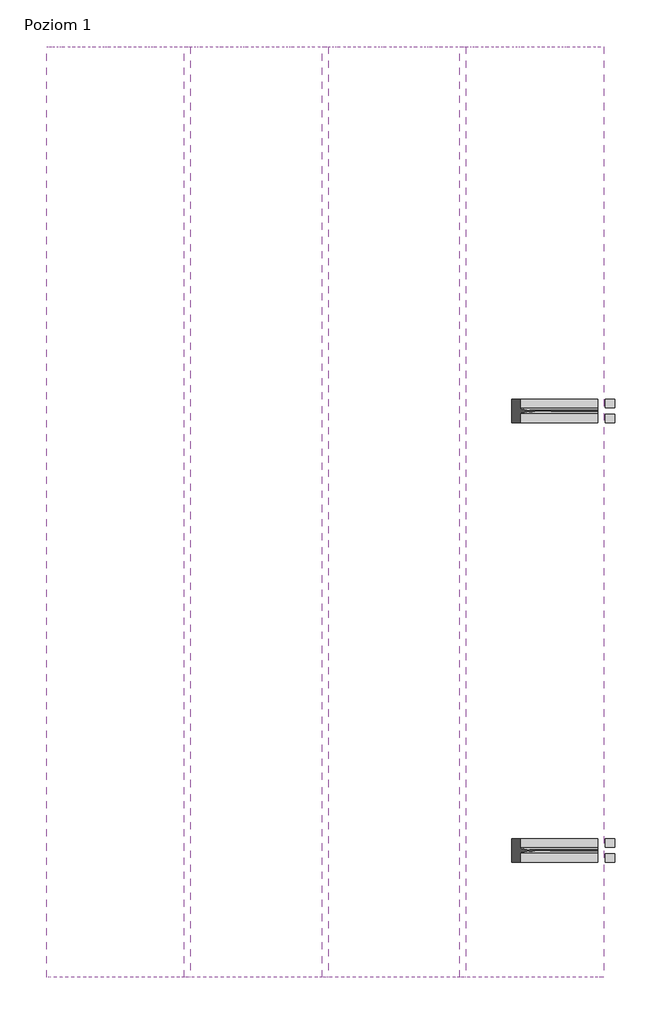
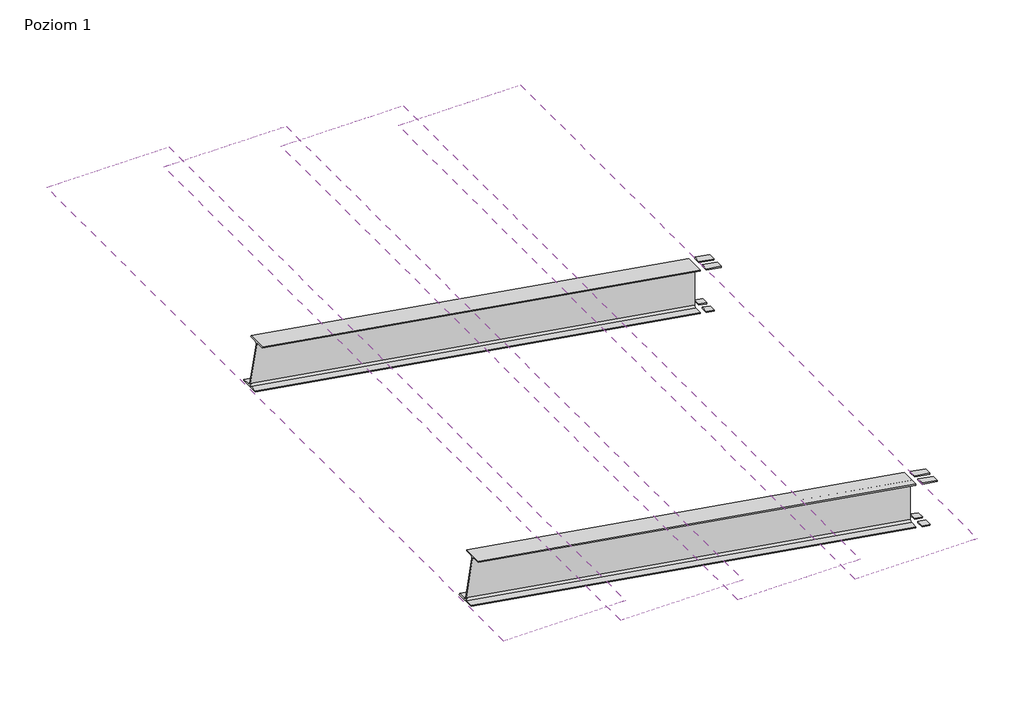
# One storey: 4 coverings, 2 beams.
"""IFC4 building model written with IfcOpenShell, lengths in millimetres."""

from ifc_helpers import new_model, si_unit, frame, origin, place, context, project, spatial, polyline, circle_curve, ellipse_curve, faceted_brep, transform, mapped, element, save
from ifc_brep_helpers import plane_surface, revolved_surface, advanced_brep
from components import covering_ad631c73

model = new_model("IFC4")

# Units and contexts
model_context = context("Model", 3, world=origin())
ifc_project = project(units=[si_unit("LENGTHUNIT", "METRE", prefix="MILLI")], contexts=[model_context])

# Site, building, storey
site = spatial("IfcSite", under=ifc_project)
building = spatial("IfcBuilding", under=site)
storey = spatial("IfcBuildingStorey", under=building, Name="Poziom 1", Elevation=3000.0)

# Beams
placement = place(None, origin())
element("IfcBeam", 1, ObjectType="Standard2 : Standard", at=placement, inside=storey, context=model_context, shape_type="SolidModel", body=[
    advanced_brep(
    [(-4809.5463115, -7785.3492704, 4748.6330156), (-4809.5463115, -7717.7942704, 4748.6330156), (-4806.6869603, -7700.0942704, 4766.1005314), (-4750.6630614, -7700.0942704, 5108.3454185), (-4747.8037101, -7717.7942704, 5125.8129344), (-4747.8037101, -7785.3492704, 5125.8129344), (-4746.0428667, -7785.3492704, 5136.5697662), (-4746.0428667, -7607.3492704, 5136.5697662), (-4747.8037101, -7607.3492704, 5125.8129344), (-4747.8037101, -7674.9042704, 5125.8129344), (-4750.6630614, -7692.6042704, 5108.3454185), (-4806.6869603, -7692.6042704, 4766.1005314), (-4809.5463115, -7674.9042704, 4748.6330156), (-4809.5463115, -7607.3492704, 4748.6330156), (-4811.307155, -7607.3492704, 4737.8761837), (-4811.307155, -7785.3492704, 4737.8761837), (-877.2962443, -7785.3492704, 4104.9419374), (-877.2962443, -7717.7942704, 4104.9419374), (-877.2962443, -7700.0942704, 4122.8775158), (-877.2962443, -7700.0942704, 4474.2932551), (-877.2962443, -7717.7942704, 4492.2288334), (-877.2962443, -7785.3492704, 4492.2288334), (-877.2962443, -7785.3492704, 4503.2739071), (-877.2962443, -7607.3492704, 4503.2739071), (-877.2962443, -7607.3492704, 4492.2288334), (-877.2962443, -7674.9042704, 4492.2288334), (-877.2962443, -7692.6042704, 4474.2932551), (-877.2962443, -7692.6042704, 4122.8775158), (-877.2962443, -7674.9042704, 4104.9419374), (-877.2962443, -7607.3492704, 4104.9419374), (-877.2962443, -7607.3492704, 4093.8968637), (-877.2962443, -7785.3492704, 4093.8968637)],
    [
        (0, 1),
        (1, 2, circle_curve(frame((-4806.6869603, -7717.7942704, 4766.1005314), z_axis=(0.9868653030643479, 0.0, -0.16154526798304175), x_axis=(0.0, 1.0, 0.0)), 17.7)),
        (2, 3),
        (3, 4, circle_curve(frame((-4750.6630614, -7717.7942704, 5108.3454185), z_axis=(0.9868653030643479, 0.0, -0.16154526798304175), x_axis=(0.0, 1.0, 0.0)), 17.7)),
        (4, 5),
        (5, 6),
        (6, 7),
        (7, 8),
        (8, 9),
        (9, 10, circle_curve(frame((-4750.6630614, -7674.9042704, 5108.3454185), z_axis=(0.9868653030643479, 0.0, -0.16154526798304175), x_axis=(0.0, 1.0, 0.0)), 17.7)),
        (10, 11),
        (11, 12, circle_curve(frame((-4806.6869603, -7674.9042704, 4766.1005314), z_axis=(0.9868653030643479, 0.0, -0.16154526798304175), x_axis=(0.0, 1.0, 0.0)), 17.7)),
        (12, 13),
        (13, 14),
        (14, 15),
        (15, 0),
        (0, 16),
        (16, 17),
        (17, 1),
        (17, 18, ellipse_curve(frame((-877.2962443, -7717.7942704, 4122.8775158), z_axis=(1.0, 0.0, 0.0), x_axis=(0.0, 0.0, -1.0)), 17.9355784, 17.7)),
        (18, 2),
        (18, 19),
        (19, 3),
        (19, 20, ellipse_curve(frame((-877.2962443, -7717.7942704, 4474.2932551), z_axis=(1.0, 0.0, 0.0), x_axis=(0.0, 0.0, -1.0)), 17.9355784, 17.7)),
        (20, 4),
        (20, 21),
        (21, 5),
        (21, 22),
        (22, 6),
        (22, 23),
        (23, 7),
        (23, 24),
        (24, 8),
        (24, 25),
        (25, 9),
        (25, 26, ellipse_curve(frame((-877.2962443, -7674.9042704, 4474.2932551), z_axis=(1.0, 0.0, 0.0), x_axis=(0.0, 0.0, -1.0)), 17.9355784, 17.7)),
        (26, 10),
        (26, 27),
        (27, 11),
        (27, 28, ellipse_curve(frame((-877.2962443, -7674.9042704, 4122.8775158), z_axis=(1.0, 0.0, 0.0), x_axis=(0.0, 0.0, -1.0)), 17.9355784, 17.7)),
        (28, 12),
        (28, 29),
        (29, 13),
        (29, 30),
        (30, 14),
        (30, 31),
        (31, 15),
        (31, 16),
    ],
    [
        plane_surface(frame((-4778.6750108, -7696.3492704, 4937.222975), z_axis=(-0.9868653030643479, 0.0, 0.16154526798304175), x_axis=(0.16154526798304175, 0.0, 0.9868653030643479))),
        plane_surface(frame((-4809.5463115, -7785.3492704, 4748.6330156), z_axis=(0.16154526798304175, 0.0, 0.9868653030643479), x_axis=(0.9868653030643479, 0.0, -0.16154526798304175))),
        revolved_surface(polyline([(-874.4368930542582, -7700.0942704, 4122.409453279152), (-4806.6869603, -7700.0942704, 4766.1005314)]), (-4806.6869603, -7717.7942704, 4766.1005314), (0.9868653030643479, 0.0, -0.16154526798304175)),
        plane_surface(frame((-4806.6869603, -7700.0942704, 4766.1005314), z_axis=(0.0, -1.0, 0.0), x_axis=(0.9868653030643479, 0.0, -0.16154526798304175))),
        revolved_surface(polyline([(-874.4368930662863, -7700.0942704, 4473.825192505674), (-4750.6630614, -7700.0942704, 5108.3454185)]), (-4750.6630614, -7717.7942704, 5108.3454185), (0.9868653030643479, 0.0, -0.16154526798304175)),
        plane_surface(frame((-4747.8037101, -7717.7942704, 5125.8129344), z_axis=(-0.16154526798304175, 0.0, -0.9868653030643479), x_axis=(0.9868653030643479, 0.0, -0.16154526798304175))),
        plane_surface(frame((-4747.8037101, -7785.3492704, 5125.8129344), z_axis=(0.0, -1.0, 0.0), x_axis=(0.9868653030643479, 0.0, -0.16154526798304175))),
        plane_surface(frame((-4746.0428667, -7785.3492704, 5136.5697662), z_axis=(0.16154526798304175, 0.0, 0.9868653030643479), x_axis=(0.9868653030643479, 0.0, -0.16154526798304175))),
        plane_surface(frame((-4746.0428667, -7607.3492704, 5136.5697662), z_axis=(0.0, 1.0, 0.0), x_axis=(0.9868653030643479, 0.0, -0.16154526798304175))),
        plane_surface(frame((-4747.8037101, -7607.3492704, 5125.8129344), z_axis=(-0.16154526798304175, 0.0, -0.9868653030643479), x_axis=(0.9868653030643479, 0.0, -0.16154526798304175))),
        revolved_surface(polyline([(-874.4368930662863, -7657.2042704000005, 4473.825192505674), (-4750.6630614, -7657.2042704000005, 5108.3454185)]), (-4750.6630614, -7674.9042704, 5108.3454185), (0.9868653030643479, 0.0, -0.16154526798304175)),
        plane_surface(frame((-4750.6630614, -7692.6042704, 5108.3454185), z_axis=(0.0, 1.0, 0.0), x_axis=(0.9868653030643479, 0.0, -0.16154526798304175))),
        revolved_surface(polyline([(-874.4368930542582, -7657.2042704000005, 4122.409453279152), (-4806.6869603, -7657.2042704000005, 4766.1005314)]), (-4806.6869603, -7674.9042704, 4766.1005314), (0.9868653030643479, 0.0, -0.16154526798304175)),
        plane_surface(frame((-4809.5463115, -7674.9042704, 4748.6330156), z_axis=(0.16154526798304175, 0.0, 0.9868653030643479), x_axis=(0.9868653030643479, 0.0, -0.16154526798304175))),
        plane_surface(frame((-4809.5463115, -7607.3492704, 4748.6330156), z_axis=(0.0, 1.0, 0.0), x_axis=(0.9868653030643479, 0.0, -0.16154526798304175))),
        plane_surface(frame((-4811.307155, -7607.3492704, 4737.8761837), z_axis=(-0.16154526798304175, 0.0, -0.9868653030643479), x_axis=(0.9868653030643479, 0.0, -0.16154526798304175))),
        plane_surface(frame((-4811.307155, -7785.3492704, 4737.8761837), z_axis=(0.0, -1.0, 0.0), x_axis=(0.9868653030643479, 0.0, -0.16154526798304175))),
        plane_surface(frame((-877.2962443, -7805.8492704, -20.0), z_axis=(1.0, 0.0, 0.0), x_axis=(0.0, 0.0, 1.0))),
    ],
    [
        (0, [[1, 2, 3, 4, 5, 6, 7, 8, 9, 10, 11, 12, 13, 14, 15, 16]]),
        (1, [[-1, 17, 18, 19]]),
        (2, [[-2, -19, 20, 21]]),
        (3, [[-3, -21, 22, 23]]),
        (4, [[-4, -23, 24, 25]]),
        (5, [[-5, -25, 26, 27]]),
        (6, [[-6, -27, 28, 29]]),
        (7, [[-7, -29, 30, 31]]),
        (8, [[-8, -31, 32, 33]]),
        (9, [[-9, -33, 34, 35]]),
        (10, [[-10, -35, 36, 37]]),
        (11, [[-11, -37, 38, 39]]),
        (12, [[-12, -39, 40, 41]]),
        (13, [[-13, -41, 42, 43]]),
        (14, [[-14, -43, 44, 45]]),
        (15, [[-15, -45, 46, 47]]),
        (16, [[-16, -47, 48, -17]]),
        (17, [[-18, -48, -46, -44, -42, -40, -38, -36, -34, -32, -30, -28, -26, -24, -22, -20]]),
    ],
),
    faceted_brep([(-754.3610265, -7607.3492704, 4073.7729394), (-752.6001831, -7607.3492704, 4084.5297712), (-752.6001831, -7671.9692704, 4084.5297712), (-754.3610265, -7671.9692704, 4073.7729394), (-822.8962443, -7671.9692704, 4084.9918363), (-822.8962443, -7671.9692704, 4096.03691), (-822.8962443, -7607.3492704, 4096.03691), (-822.8962443, -7607.3492704, 4084.9918363)], [[[0, 1, 2, 3]], [[4, 5, 6, 7]], [[5, 4, 3, 2]], [[2, 1, 6, 5]], [[1, 0, 7, 6]], [[0, 3, 4, 7]]]),
    faceted_brep([(-822.8962443, -7720.7292704, 4084.9918363), (-822.8962443, -7720.7292704, 4096.03691), (-752.6001831, -7720.7292704, 4084.5297712), (-754.3610265, -7720.7292704, 4073.7729394), (-822.8962443, -7785.3492704, 4084.9918363), (-822.8962443, -7785.3492704, 4096.03691), (-752.6001831, -7785.3492704, 4084.5297712), (-754.3610265, -7785.3492704, 4073.7729394)], [[[0, 1, 2, 3]], [[1, 0, 4, 5]], [[6, 7, 3, 2]], [[6, 2, 1, 5]], [[3, 7, 4, 0]], [[7, 6, 5, 4]]]),
    faceted_brep([(-690.8575817, -7607.3492704, 4461.70969), (-689.0967383, -7607.3492704, 4472.4665218), (-689.0967383, -7671.9692704, 4472.4665218), (-690.8575817, -7671.9692704, 4461.70969), (-822.8962443, -7607.3492704, 4494.3688797), (-822.8962443, -7671.9692704, 4494.3688797), (-822.8962443, -7607.3492704, 4483.323806), (-822.8962443, -7671.9692704, 4483.323806)], [[[0, 1, 2, 3]], [[2, 1, 4, 5]], [[1, 0, 6, 4]], [[0, 3, 7, 6]], [[7, 5, 4, 6]], [[5, 7, 3, 2]]]),
    faceted_brep([(-689.0967383, -7785.3492704, 4472.4665218), (-690.8575817, -7785.3492704, 4461.70969), (-690.8575817, -7720.7292704, 4461.70969), (-689.0967383, -7720.7292704, 4472.4665218), (-822.8962443, -7785.3492704, 4483.323806), (-822.8962443, -7720.7292704, 4483.323806), (-822.8962443, -7785.3492704, 4494.3688797), (-822.8962443, -7720.7292704, 4494.3688797)], [[[0, 1, 2, 3]], [[2, 1, 4, 5]], [[1, 0, 6, 4]], [[0, 3, 7, 6]], [[5, 7, 3, 2]], [[7, 5, 4, 6]]]),
])
element("IfcBeam", 2, ObjectType="Standard2 : Standard", at=placement, inside=storey, context=model_context, shape_type="SolidModel", body=[
    advanced_brep(
    [(-4809.5463115, -4480.5492704, 4748.6330156), (-4809.5463115, -4412.9942704, 4748.6330156), (-4806.6869603, -4395.2942704, 4766.1005314), (-4750.6630614, -4395.2942704, 5108.3454185), (-4747.8037101, -4412.9942704, 5125.8129344), (-4747.8037101, -4480.5492704, 5125.8129344), (-4746.0428667, -4480.5492704, 5136.5697662), (-4746.0428667, -4302.5492704, 5136.5697662), (-4747.8037101, -4302.5492704, 5125.8129344), (-4747.8037101, -4370.1042704, 5125.8129344), (-4750.6630614, -4387.8042704, 5108.3454185), (-4806.6869603, -4387.8042704, 4766.1005314), (-4809.5463115, -4370.1042704, 4748.6330156), (-4809.5463115, -4302.5492704, 4748.6330156), (-4811.307155, -4302.5492704, 4737.8761837), (-4811.307155, -4480.5492704, 4737.8761837), (-877.2962443, -4480.5492704, 4104.9419374), (-877.2962443, -4412.9942704, 4104.9419374), (-877.2962443, -4395.2942704, 4122.8775158), (-877.2962443, -4395.2942704, 4474.2932551), (-877.2962443, -4412.9942704, 4492.2288334), (-877.2962443, -4480.5492704, 4492.2288334), (-877.2962443, -4480.5492704, 4503.2739071), (-877.2962443, -4302.5492704, 4503.2739071), (-877.2962443, -4302.5492704, 4492.2288334), (-877.2962443, -4370.1042704, 4492.2288334), (-877.2962443, -4387.8042704, 4474.2932551), (-877.2962443, -4387.8042704, 4122.8775158), (-877.2962443, -4370.1042704, 4104.9419374), (-877.2962443, -4302.5492704, 4104.9419374), (-877.2962443, -4302.5492704, 4093.8968637), (-877.2962443, -4480.5492704, 4093.8968637)],
    [
        (0, 1),
        (1, 2, circle_curve(frame((-4806.6869603, -4412.9942704, 4766.1005314), z_axis=(0.9868653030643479, 0.0, -0.16154526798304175), x_axis=(0.0, 1.0, 0.0)), 17.7)),
        (2, 3),
        (3, 4, circle_curve(frame((-4750.6630614, -4412.9942704, 5108.3454185), z_axis=(0.9868653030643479, 0.0, -0.16154526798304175), x_axis=(0.0, 1.0, 0.0)), 17.7)),
        (4, 5),
        (5, 6),
        (6, 7),
        (7, 8),
        (8, 9),
        (9, 10, circle_curve(frame((-4750.6630614, -4370.1042704, 5108.3454185), z_axis=(0.9868653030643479, 0.0, -0.16154526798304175), x_axis=(0.0, 1.0, 0.0)), 17.7)),
        (10, 11),
        (11, 12, circle_curve(frame((-4806.6869603, -4370.1042704, 4766.1005314), z_axis=(0.9868653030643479, 0.0, -0.16154526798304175), x_axis=(0.0, 1.0, 0.0)), 17.7)),
        (12, 13),
        (13, 14),
        (14, 15),
        (15, 0),
        (0, 16),
        (16, 17),
        (17, 1),
        (17, 18, ellipse_curve(frame((-877.2962443, -4412.9942704, 4122.8775158), z_axis=(1.0, 0.0, 0.0), x_axis=(0.0, 0.0, -1.0)), 17.9355784, 17.7)),
        (18, 2),
        (18, 19),
        (19, 3),
        (19, 20, ellipse_curve(frame((-877.2962443, -4412.9942704, 4474.2932551), z_axis=(1.0, 0.0, 0.0), x_axis=(0.0, 0.0, -1.0)), 17.9355784, 17.7)),
        (20, 4),
        (20, 21),
        (21, 5),
        (21, 22),
        (22, 6),
        (22, 23),
        (23, 7),
        (23, 24),
        (24, 8),
        (24, 25),
        (25, 9),
        (25, 26, ellipse_curve(frame((-877.2962443, -4370.1042704, 4474.2932551), z_axis=(1.0, 0.0, 0.0), x_axis=(0.0, 0.0, -1.0)), 17.9355784, 17.7)),
        (26, 10),
        (26, 27),
        (27, 11),
        (27, 28, ellipse_curve(frame((-877.2962443, -4370.1042704, 4122.8775158), z_axis=(1.0, 0.0, 0.0), x_axis=(0.0, 0.0, -1.0)), 17.9355784, 17.7)),
        (28, 12),
        (28, 29),
        (29, 13),
        (29, 30),
        (30, 14),
        (30, 31),
        (31, 15),
        (31, 16),
    ],
    [
        plane_surface(frame((-4778.6750108, -4391.5492704, 4937.222975), z_axis=(-0.9868653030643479, 0.0, 0.16154526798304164), x_axis=(0.16154526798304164, 0.0, 0.9868653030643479))),
        plane_surface(frame((-4809.5463115, -4480.5492704, 4748.6330156), z_axis=(0.16154526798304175, 0.0, 0.9868653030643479), x_axis=(0.9868653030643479, 0.0, -0.16154526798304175))),
        revolved_surface(polyline([(-874.4368930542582, -4395.2942704, 4122.409453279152), (-4806.6869603, -4395.2942704, 4766.1005314)]), (-4806.6869603, -4412.9942704, 4766.1005314), (0.9868653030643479, 0.0, -0.16154526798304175)),
        plane_surface(frame((-4806.6869603, -4395.2942704, 4766.1005314), z_axis=(0.0, -1.0, 0.0), x_axis=(0.9868653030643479, 0.0, -0.16154526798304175))),
        revolved_surface(polyline([(-874.4368930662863, -4395.2942704, 4473.825192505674), (-4750.6630614, -4395.2942704, 5108.3454185)]), (-4750.6630614, -4412.9942704, 5108.3454185), (0.9868653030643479, 0.0, -0.16154526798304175)),
        plane_surface(frame((-4747.8037101, -4412.9942704, 5125.8129344), z_axis=(-0.16154526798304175, 0.0, -0.9868653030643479), x_axis=(0.9868653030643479, 0.0, -0.16154526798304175))),
        plane_surface(frame((-4747.8037101, -4480.5492704, 5125.8129344), z_axis=(0.0, -1.0, 0.0), x_axis=(0.9868653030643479, 0.0, -0.16154526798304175))),
        plane_surface(frame((-4746.0428667, -4480.5492704, 5136.5697662), z_axis=(0.16154526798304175, 0.0, 0.9868653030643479), x_axis=(0.9868653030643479, 0.0, -0.16154526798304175))),
        plane_surface(frame((-4746.0428667, -4302.5492704, 5136.5697662), z_axis=(0.0, 1.0, 0.0), x_axis=(0.9868653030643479, 0.0, -0.16154526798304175))),
        plane_surface(frame((-4747.8037101, -4302.5492704, 5125.8129344), z_axis=(-0.16154526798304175, 0.0, -0.9868653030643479), x_axis=(0.9868653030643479, 0.0, -0.16154526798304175))),
        revolved_surface(polyline([(-874.4368930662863, -4352.4042704, 4473.825192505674), (-4750.6630614, -4352.4042704, 5108.3454185)]), (-4750.6630614, -4370.1042704, 5108.3454185), (0.9868653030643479, 0.0, -0.16154526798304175)),
        plane_surface(frame((-4750.6630614, -4387.8042704, 5108.3454185), z_axis=(0.0, 1.0, 0.0), x_axis=(0.9868653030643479, 0.0, -0.16154526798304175))),
        revolved_surface(polyline([(-874.4368930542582, -4352.4042704, 4122.409453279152), (-4806.6869603, -4352.4042704, 4766.1005314)]), (-4806.6869603, -4370.1042704, 4766.1005314), (0.9868653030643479, 0.0, -0.16154526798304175)),
        plane_surface(frame((-4809.5463115, -4370.1042704, 4748.6330156), z_axis=(0.16154526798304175, 0.0, 0.9868653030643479), x_axis=(0.9868653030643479, 0.0, -0.16154526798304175))),
        plane_surface(frame((-4809.5463115, -4302.5492704, 4748.6330156), z_axis=(0.0, 1.0, 0.0), x_axis=(0.9868653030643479, 0.0, -0.16154526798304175))),
        plane_surface(frame((-4811.307155, -4302.5492704, 4737.8761837), z_axis=(-0.16154526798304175, 0.0, -0.9868653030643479), x_axis=(0.9868653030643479, 0.0, -0.16154526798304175))),
        plane_surface(frame((-4811.307155, -4480.5492704, 4737.8761837), z_axis=(0.0, -1.0, 0.0), x_axis=(0.9868653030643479, 0.0, -0.16154526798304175))),
        plane_surface(frame((-877.2962443, -4501.0492704, -20.0), z_axis=(1.0, 0.0, 0.0), x_axis=(0.0, 0.0, 1.0))),
    ],
    [
        (0, [[1, 2, 3, 4, 5, 6, 7, 8, 9, 10, 11, 12, 13, 14, 15, 16]]),
        (1, [[-1, 17, 18, 19]]),
        (2, [[-2, -19, 20, 21]]),
        (3, [[-3, -21, 22, 23]]),
        (4, [[-4, -23, 24, 25]]),
        (5, [[-5, -25, 26, 27]]),
        (6, [[-6, -27, 28, 29]]),
        (7, [[-7, -29, 30, 31]]),
        (8, [[-8, -31, 32, 33]]),
        (9, [[-9, -33, 34, 35]]),
        (10, [[-10, -35, 36, 37]]),
        (11, [[-11, -37, 38, 39]]),
        (12, [[-12, -39, 40, 41]]),
        (13, [[-13, -41, 42, 43]]),
        (14, [[-14, -43, 44, 45]]),
        (15, [[-15, -45, 46, 47]]),
        (16, [[-16, -47, 48, -17]]),
        (17, [[-18, -48, -46, -44, -42, -40, -38, -36, -34, -32, -30, -28, -26, -24, -22, -20]]),
    ],
),
    faceted_brep([(-754.3610265, -4302.5492704, 4073.7729394), (-752.6001831, -4302.5492704, 4084.5297712), (-752.6001831, -4367.1692704, 4084.5297712), (-754.3610265, -4367.1692704, 4073.7729394), (-822.8962443, -4367.1692704, 4084.9918363), (-822.8962443, -4367.1692704, 4096.03691), (-822.8962443, -4302.5492704, 4096.03691), (-822.8962443, -4302.5492704, 4084.9918363)], [[[0, 1, 2, 3]], [[4, 5, 6, 7]], [[5, 4, 3, 2]], [[2, 1, 6, 5]], [[1, 0, 7, 6]], [[0, 3, 4, 7]]]),
    faceted_brep([(-822.8962443, -4415.9292704, 4084.9918363), (-822.8962443, -4415.9292704, 4096.03691), (-752.6001831, -4415.9292704, 4084.5297712), (-754.3610265, -4415.9292704, 4073.7729394), (-822.8962443, -4480.5492704, 4084.9918363), (-822.8962443, -4480.5492704, 4096.03691), (-752.6001831, -4480.5492704, 4084.5297712), (-754.3610265, -4480.5492704, 4073.7729394)], [[[0, 1, 2, 3]], [[1, 0, 4, 5]], [[6, 7, 3, 2]], [[6, 2, 1, 5]], [[3, 7, 4, 0]], [[7, 6, 5, 4]]]),
    faceted_brep([(-690.8575817, -4302.5492704, 4461.70969), (-689.0967383, -4302.5492704, 4472.4665218), (-689.0967383, -4367.1692704, 4472.4665218), (-690.8575817, -4367.1692704, 4461.70969), (-822.8962443, -4302.5492704, 4494.3688797), (-822.8962443, -4367.1692704, 4494.3688797), (-822.8962443, -4302.5492704, 4483.323806), (-822.8962443, -4367.1692704, 4483.323806)], [[[0, 1, 2, 3]], [[2, 1, 4, 5]], [[1, 0, 6, 4]], [[0, 3, 7, 6]], [[7, 5, 4, 6]], [[5, 7, 3, 2]]]),
    faceted_brep([(-689.0967383, -4480.5492704, 4472.4665218), (-690.8575817, -4480.5492704, 4461.70969), (-690.8575817, -4415.9292704, 4461.70969), (-689.0967383, -4415.9292704, 4472.4665218), (-822.8962443, -4480.5492704, 4483.323806), (-822.8962443, -4415.9292704, 4483.323806), (-822.8962443, -4480.5492704, 4494.3688797), (-822.8962443, -4415.9292704, 4494.3688797)], [[[0, 1, 2, 3]], [[2, 1, 4, 5]], [[1, 0, 6, 4]], [[0, 3, 7, 6]], [[5, 7, 3, 2]], [[7, 5, 4, 6]]]),
])

# Coverings
covering_shape = covering_ad631c73(model_context)
element("IfcCovering", 3, ObjectType="Płyta warstwowa dachowa SPR CORE WOOL (pojedynczy arkusz) : -", at=placement, inside=storey, context=model_context, shape_type="MappedRepresentation", body=[
    mapped(covering_shape, transform((-3974.7765344, -8651.2094834, 5171.4332613), x_axis=(-0.9868653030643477, 3.3466377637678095e-08, 0.1615452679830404), y_axis=(-3.302680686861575e-08, -0.9999999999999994, 5.4063349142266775e-09), z_axis=(0.16154526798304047, 0.0, 0.9868653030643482))),
])
element("IfcCovering", 4, ObjectType="Płyta warstwowa dachowa SPR CORE WOOL (pojedynczy arkusz) : -", at=placement, inside=storey, context=model_context, shape_type="MappedRepresentation", body=[
    mapped(covering_shape, transform((-2938.5679661, -8651.2094834, 5001.8107299), x_axis=(-0.9868653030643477, 3.346637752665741e-08, 0.16154526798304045), y_axis=(-3.3026806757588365e-08, -0.9999999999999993, 5.406334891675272e-09), z_axis=(0.16154526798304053, 0.0, 0.9868653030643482))),
])
element("IfcCovering", 5, ObjectType="Płyta warstwowa dachowa SPR CORE WOOL (pojedynczy arkusz) : -", at=placement, inside=storey, context=model_context, shape_type="MappedRepresentation", body=[
    mapped(covering_shape, transform((-1902.3593979, -8651.2094834, 4832.1881985), x_axis=(-0.9868653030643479, 3.3466377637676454e-08, 0.16154526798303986), y_axis=(-3.302680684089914e-08, -0.9999999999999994, 5.4063349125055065e-09), z_axis=(0.16154526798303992, 0.0, 0.9868653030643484))),
])
element("IfcCovering", 6, ObjectType="Płyta warstwowa dachowa SPR CORE WOOL (pojedynczy arkusz) : -", at=placement, inside=storey, context=model_context, shape_type="MappedRepresentation", body=[
    mapped(covering_shape, transform((-5010.9851026, -8651.2094834, 5341.0557927), x_axis=(-0.9868653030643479, 3.346637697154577e-08, 0.16154526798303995), y_axis=(-3.3026806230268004e-08, -0.9999999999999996, 5.406334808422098e-09), z_axis=(0.16154526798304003, 0.0, 0.9868653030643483))),
])

save(model, "model.ifc")
